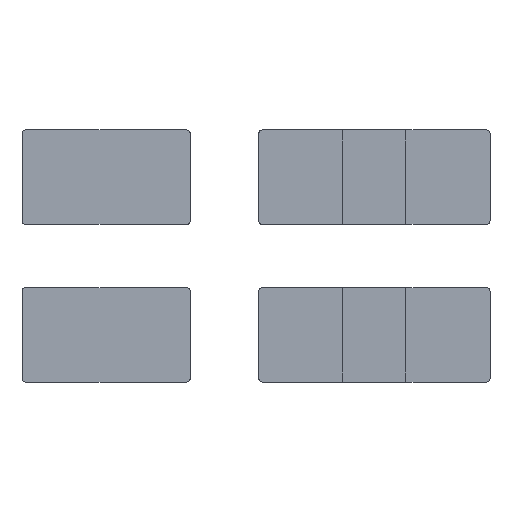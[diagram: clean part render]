
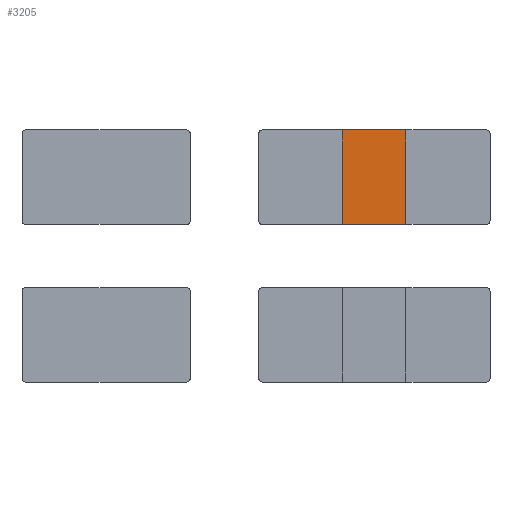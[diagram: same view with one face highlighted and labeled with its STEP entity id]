
A CAD part, top view. The second image highlights one B-rep face of the part: STEP entity #3205.
In plain terms, the highlighted free-form (B-spline) face has degree [1, 1] with [2, 2] control points.
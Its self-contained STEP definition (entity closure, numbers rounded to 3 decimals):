
#3205=ADVANCED_FACE('',(#3897),#24238,.T.);
#3897=FACE_OUTER_BOUND('',#4589,.T.);
#4589=EDGE_LOOP('',(#6857,#6858,#6859,#6860));
#6857=ORIENTED_EDGE('',*,*,#18053,.T.);
#6858=ORIENTED_EDGE('',*,*,#18054,.T.);
#6859=ORIENTED_EDGE('',*,*,#18055,.T.);
#6860=ORIENTED_EDGE('',*,*,#18056,.T.);
#10993=PCURVE('',#24238,#14217);
#10994=PCURVE('',#24238,#14218);
#10995=PCURVE('',#24238,#14219);
#10996=PCURVE('',#24238,#14220);
#11003=PCURVE('',#24240,#14227);
#11007=PCURVE('',#24241,#14231);
#11011=PCURVE('',#24242,#14235);
#11015=PCURVE('',#24243,#14239);
#14217=DEFINITIONAL_REPRESENTATION('',(#21190),#49088);
#14218=DEFINITIONAL_REPRESENTATION('',(#21192),#49088);
#14219=DEFINITIONAL_REPRESENTATION('',(#21194),#49088);
#14220=DEFINITIONAL_REPRESENTATION('',(#21196),#49088);
#14227=DEFINITIONAL_REPRESENTATION('',(#21208),#49088);
#14231=DEFINITIONAL_REPRESENTATION('',(#21214),#49088);
#14235=DEFINITIONAL_REPRESENTATION('',(#21219),#49088);
#14239=DEFINITIONAL_REPRESENTATION('',(#21223),#49088);
#16441=SURFACE_CURVE('',#21189,(#10993,#11003),.PCURVE_S1.);
#16442=SURFACE_CURVE('',#21191,(#10994,#11007),.PCURVE_S1.);
#16443=SURFACE_CURVE('',#21193,(#10995,#11011),.PCURVE_S1.);
#16444=SURFACE_CURVE('',#21195,(#10996,#11015),.PCURVE_S1.);
#18053=EDGE_CURVE('',#23338,#23339,#16441,.T.);
#18054=EDGE_CURVE('',#23339,#23340,#16442,.T.);
#18055=EDGE_CURVE('',#23340,#23341,#16443,.T.);
#18056=EDGE_CURVE('',#23341,#23338,#16444,.T.);
#21189=B_SPLINE_CURVE_WITH_KNOTS('',1,(#41193,#41194),.UNSPECIFIED.,.F.,
 .F.,(2,2),(0.,900.),.UNSPECIFIED.);
#21190=B_SPLINE_CURVE_WITH_KNOTS('',1,(#41195,#41196),.UNSPECIFIED.,.F.,
 .F.,(2,2),(0.,900.),.UNSPECIFIED.);
#21191=B_SPLINE_CURVE_WITH_KNOTS('',1,(#41197,#41198),.UNSPECIFIED.,.F.,
 .F.,(2,2),(0.,600.),.UNSPECIFIED.);
#21192=B_SPLINE_CURVE_WITH_KNOTS('',1,(#41199,#41200),.UNSPECIFIED.,.F.,
 .F.,(2,2),(0.,600.),.UNSPECIFIED.);
#21193=B_SPLINE_CURVE_WITH_KNOTS('',1,(#41201,#41202),.UNSPECIFIED.,.F.,
 .F.,(2,2),(0.,900.),.UNSPECIFIED.);
#21194=B_SPLINE_CURVE_WITH_KNOTS('',1,(#41203,#41204),.UNSPECIFIED.,.F.,
 .F.,(2,2),(0.,900.),.UNSPECIFIED.);
#21195=B_SPLINE_CURVE_WITH_KNOTS('',1,(#41205,#41206),.UNSPECIFIED.,.F.,
 .F.,(2,2),(0.,600.),.UNSPECIFIED.);
#21196=B_SPLINE_CURVE_WITH_KNOTS('',1,(#41207,#41208),.UNSPECIFIED.,.F.,
 .F.,(2,2),(0.,600.),.UNSPECIFIED.);
#21208=B_SPLINE_CURVE_WITH_KNOTS('',1,(#41231,#41232),.UNSPECIFIED.,.F.,
 .F.,(2,2),(0.,900.),.UNSPECIFIED.);
#21214=B_SPLINE_CURVE_WITH_KNOTS('',1,(#41243,#41244),.UNSPECIFIED.,.F.,
 .F.,(2,2),(0.,600.),.UNSPECIFIED.);
#21219=B_SPLINE_CURVE_WITH_KNOTS('',1,(#41253,#41254),.UNSPECIFIED.,.F.,
 .F.,(2,2),(0.,900.),.UNSPECIFIED.);
#21223=B_SPLINE_CURVE_WITH_KNOTS('',1,(#41261,#41262),.UNSPECIFIED.,.F.,
 .F.,(2,2),(0.,600.),.UNSPECIFIED.);
#23338=VERTEX_POINT('',#41185);
#23339=VERTEX_POINT('',#41186);
#23340=VERTEX_POINT('',#41187);
#23341=VERTEX_POINT('',#41188);
#24238=B_SPLINE_SURFACE_WITH_KNOTS('',1,1,((#41161,#41162),(#41163,#41164)),
 .UNSPECIFIED.,.F.,.F.,.F.,(2,2),(2,2),(60.12,660.12),(90.12,
990.12),.UNSPECIFIED.);
#24240=B_SPLINE_SURFACE_WITH_KNOTS('',1,1,((#41169,#41170),(#41171,#41172)),
 .UNSPECIFIED.,.F.,.F.,.F.,(2,2),(2,2),(2.,23.),
(90.,990.),.UNSPECIFIED.);
#24241=B_SPLINE_SURFACE_WITH_KNOTS('',1,1,((#41173,#41174),(#41175,#41176)),
 .UNSPECIFIED.,.F.,.F.,.F.,(2,2),(2,2),(2.,23.),
(60.,660.),.UNSPECIFIED.);
#24242=B_SPLINE_SURFACE_WITH_KNOTS('',1,1,((#41177,#41178),(#41179,#41180)),
 .UNSPECIFIED.,.F.,.F.,.F.,(2,2),(2,2),(2.,23.),
(90.,990.),.UNSPECIFIED.);
#24243=B_SPLINE_SURFACE_WITH_KNOTS('',1,1,((#41181,#41182),(#41183,#41184)),
 .UNSPECIFIED.,.F.,.F.,.F.,(2,2),(2,2),(2.,23.),
(60.,660.),.UNSPECIFIED.);
#41161=CARTESIAN_POINT('',(-17446.013,-7761.858,730.034));
#41162=CARTESIAN_POINT('',(-17446.013,-6861.858,730.034));
#41163=CARTESIAN_POINT('',(-16846.013,-7761.858,730.034));
#41164=CARTESIAN_POINT('',(-16846.013,-6861.858,730.034));
#41169=CARTESIAN_POINT('',(-17446.013,-7761.858,709.034));
#41170=CARTESIAN_POINT('',(-17446.013,-6861.858,709.034));
#41171=CARTESIAN_POINT('',(-17446.013,-7761.858,730.034));
#41172=CARTESIAN_POINT('',(-17446.013,-6861.858,730.034));
#41173=CARTESIAN_POINT('',(-16846.013,-7761.858,709.034));
#41174=CARTESIAN_POINT('',(-17446.013,-7761.858,709.034));
#41175=CARTESIAN_POINT('',(-16846.013,-7761.858,730.034));
#41176=CARTESIAN_POINT('',(-17446.013,-7761.858,730.034));
#41177=CARTESIAN_POINT('',(-16846.013,-6861.858,709.034));
#41178=CARTESIAN_POINT('',(-16846.013,-7761.858,709.034));
#41179=CARTESIAN_POINT('',(-16846.013,-6861.858,730.034));
#41180=CARTESIAN_POINT('',(-16846.013,-7761.858,730.034));
#41181=CARTESIAN_POINT('',(-17446.013,-6861.858,709.034));
#41182=CARTESIAN_POINT('',(-16846.013,-6861.858,709.034));
#41183=CARTESIAN_POINT('',(-17446.013,-6861.858,730.034));
#41184=CARTESIAN_POINT('',(-16846.013,-6861.858,730.034));
#41185=CARTESIAN_POINT('',(-17446.013,-6861.858,730.034));
#41186=CARTESIAN_POINT('',(-17446.013,-7761.858,730.034));
#41187=CARTESIAN_POINT('',(-16846.013,-7761.858,730.034));
#41188=CARTESIAN_POINT('',(-16846.013,-6861.858,730.034));
#41193=CARTESIAN_POINT('',(-17446.013,-6861.858,730.034));
#41194=CARTESIAN_POINT('',(-17446.013,-7761.858,730.034));
#41195=CARTESIAN_POINT('',(60.12,990.12));
#41196=CARTESIAN_POINT('',(60.12,90.12));
#41197=CARTESIAN_POINT('',(-17446.013,-7761.858,730.034));
#41198=CARTESIAN_POINT('',(-16846.013,-7761.858,730.034));
#41199=CARTESIAN_POINT('',(60.12,90.12));
#41200=CARTESIAN_POINT('',(660.12,90.12));
#41201=CARTESIAN_POINT('',(-16846.013,-7761.858,730.034));
#41202=CARTESIAN_POINT('',(-16846.013,-6861.858,730.034));
#41203=CARTESIAN_POINT('',(660.12,90.12));
#41204=CARTESIAN_POINT('',(660.12,990.12));
#41205=CARTESIAN_POINT('',(-16846.013,-6861.858,730.034));
#41206=CARTESIAN_POINT('',(-17446.013,-6861.858,730.034));
#41207=CARTESIAN_POINT('',(660.12,990.12));
#41208=CARTESIAN_POINT('',(60.12,990.12));
#41231=CARTESIAN_POINT('',(23.,990.));
#41232=CARTESIAN_POINT('',(23.,90.));
#41243=CARTESIAN_POINT('',(23.,660.));
#41244=CARTESIAN_POINT('',(23.,60.));
#41253=CARTESIAN_POINT('',(23.,990.));
#41254=CARTESIAN_POINT('',(23.,90.));
#41261=CARTESIAN_POINT('',(23.,660.));
#41262=CARTESIAN_POINT('',(23.,60.));
#49088=(
GEOMETRIC_REPRESENTATION_CONTEXT(2)
PARAMETRIC_REPRESENTATION_CONTEXT()
REPRESENTATION_CONTEXT('pspace','')
);
